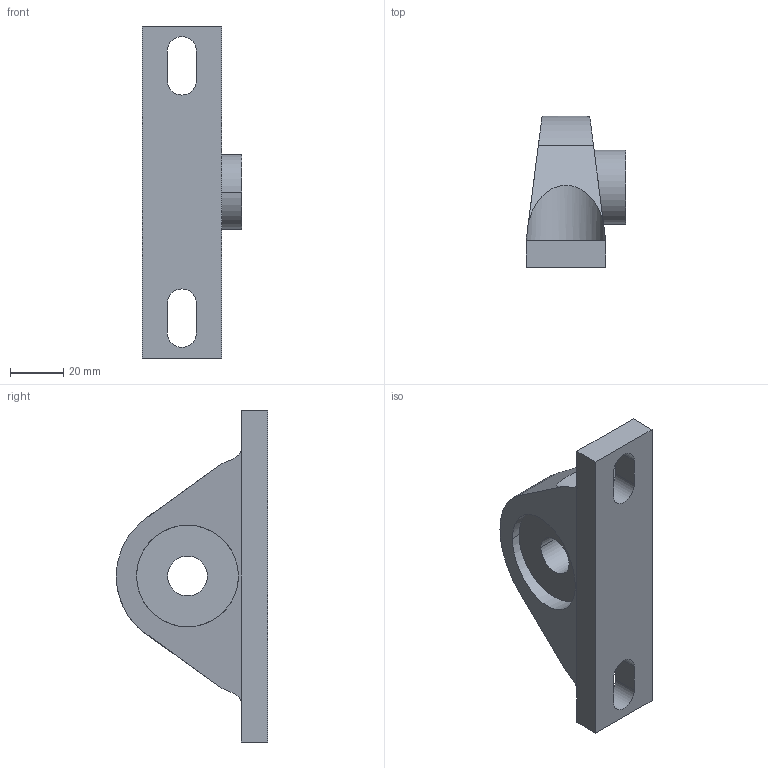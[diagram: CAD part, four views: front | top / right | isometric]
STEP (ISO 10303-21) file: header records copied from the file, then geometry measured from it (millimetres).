
FILE_DESCRIPTION(('SolidDesigner STEP Export'),'2;1');
FILE_NAME('Stehlager_PASE_15.stp','2002-07-15T15:08:22',(''),(''),'SolidDesigner STEP processor Version: 9.0 (March 2001)for AP214(DIS)for AP203(Solid Model)','CoCreate SolidDesigner: 11.00 12-Dec-2001(C) CoCreate Software GmbH','');
FILE_SCHEMA(('AUTOMOTIVE_DESIGN {1 2 10303 214 0 1 1 1}'));
Length unit declared in the file: millimetre
Products named in the file (1): Stehlager_PASE_15
Bounding box: 37.6 x 57 x 125 mm (x, y, z)
Volume: 88979.5 mm3; surface area: 21548.2 mm2
Topology: 1 solids, 1 shells, 33 faces, 81 edges, 53 vertices
Faces by surface type: plane 18, cylinder 15
Entity records: 955 total; most frequent: ORIENTED_EDGE 162, DIRECTION 158, CARTESIAN_POINT 155, EDGE_CURVE 81, AXIS2_PLACEMENT_3D 56, VERTEX_POINT 53, VECTOR 46, LINE 46
